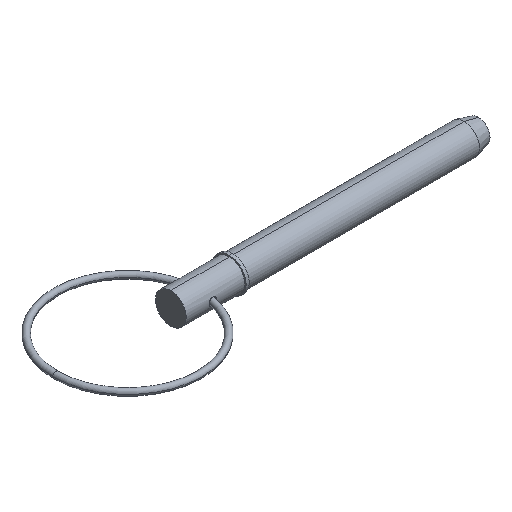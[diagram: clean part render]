
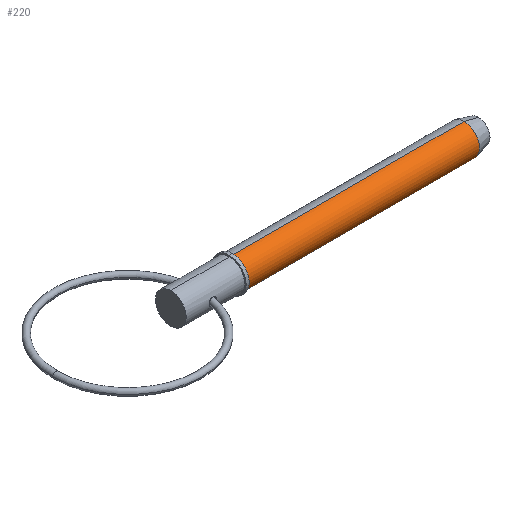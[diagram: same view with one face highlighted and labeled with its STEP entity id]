
A CAD part, isometric view. The second image highlights one B-rep face of the part: STEP entity #220.
In plain terms, the highlighted cylindrical face has radius 4.765 mm (diameter 9.53 mm), a partial arc.
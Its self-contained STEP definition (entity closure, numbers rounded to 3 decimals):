
#28 = AXIS2_PLACEMENT_3D ( 'NONE', #457, #391, #474 ) ;
#55 = VECTOR ( 'NONE', #882, 1000. ) ;
#59 = ORIENTED_EDGE ( 'NONE', *, *, #191, .T. ) ;
#75 = VERTEX_POINT ( 'NONE', #570 ) ;
#86 = AXIS2_PLACEMENT_3D ( 'NONE', #867, #240, #653 ) ;
#101 = EDGE_CURVE ( 'NONE', #75, #608, #964, .T. ) ;
#102 = ORIENTED_EDGE ( 'NONE', *, *, #101, .T. ) ;
#146 = DIRECTION ( 'NONE',  ( 1., 0., 0. ) ) ;
#148 = CIRCLE ( 'NONE', #720, 4.765 ) ;
#160 = CYLINDRICAL_SURFACE ( 'NONE', #28, 4.765 ) ;
#191 = EDGE_CURVE ( 'NONE', #419, #75, #800, .T. ) ;
#217 = CARTESIAN_POINT ( 'NONE',  ( 90.804, 0., 0. ) ) ;
#220 = ADVANCED_FACE ( 'NONE', ( #547 ), #160, .T. ) ;
#240 = DIRECTION ( 'NONE',  ( 1., 0., 0. ) ) ;
#242 = CARTESIAN_POINT ( 'NONE',  ( 19.05, 0., 4.765 ) ) ;
#250 = ORIENTED_EDGE ( 'NONE', *, *, #610, .F. ) ;
#260 = VERTEX_POINT ( 'NONE', #638 ) ;
#391 = DIRECTION ( 'NONE',  ( 1., 0., 0. ) ) ;
#419 = VERTEX_POINT ( 'NONE', #242 ) ;
#437 = CARTESIAN_POINT ( 'NONE',  ( 90.804, 0., -4.765 ) ) ;
#457 = CARTESIAN_POINT ( 'NONE',  ( 0., 0., 0. ) ) ;
#474 = DIRECTION ( 'NONE',  ( 0., 0., -1. ) ) ;
#547 = FACE_OUTER_BOUND ( 'NONE', #924, .T. ) ;
#570 = CARTESIAN_POINT ( 'NONE',  ( 19.05, 0., -4.765 ) ) ;
#608 = VERTEX_POINT ( 'NONE', #437 ) ;
#610 = EDGE_CURVE ( 'NONE', #260, #608, #148, .T. ) ;
#633 = LINE ( 'NONE', #639, #971 ) ;
#638 = CARTESIAN_POINT ( 'NONE',  ( 90.804, 0., 4.765 ) ) ;
#639 = CARTESIAN_POINT ( 'NONE',  ( 0., 0., 4.765 ) ) ;
#653 = DIRECTION ( 'NONE',  ( 0., 0., -1. ) ) ;
#720 = AXIS2_PLACEMENT_3D ( 'NONE', #217, #146, #761 ) ;
#761 = DIRECTION ( 'NONE',  ( 0., 0., -1. ) ) ;
#793 = EDGE_CURVE ( 'NONE', #419, #260, #633, .T. ) ;
#800 = CIRCLE ( 'NONE', #86, 4.765 ) ;
#867 = CARTESIAN_POINT ( 'NONE',  ( 19.05, 0., 0. ) ) ;
#875 = ORIENTED_EDGE ( 'NONE', *, *, #793, .F. ) ;
#882 = DIRECTION ( 'NONE',  ( 1., 0., 0. ) ) ;
#924 = EDGE_LOOP ( 'NONE', ( #875, #59, #102, #250 ) ) ;
#950 = CARTESIAN_POINT ( 'NONE',  ( 0., 0., -4.765 ) ) ;
#962 = DIRECTION ( 'NONE',  ( 1., 0., 0. ) ) ;
#964 = LINE ( 'NONE', #950, #55 ) ;
#971 = VECTOR ( 'NONE', #962, 1000. ) ;
